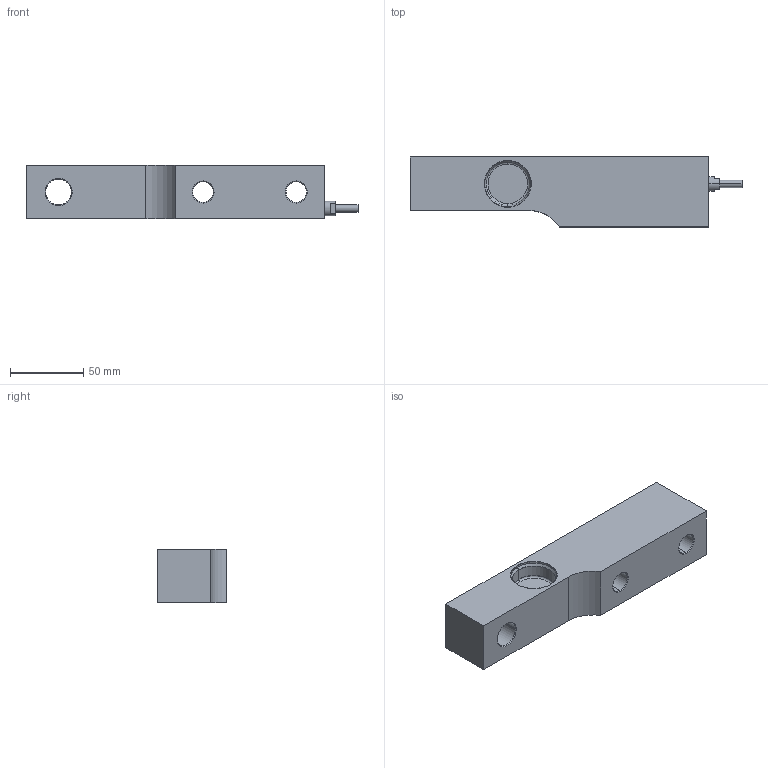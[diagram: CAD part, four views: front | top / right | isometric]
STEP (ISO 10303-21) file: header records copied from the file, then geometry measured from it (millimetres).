
FILE_DESCRIPTION (( 'STEP AP214' ), '1' );
FILE_NAME ('BM8G 2t.STEP', '2023-12-14T09:50:33', ( '' ), ( '' ), 'SwSTEP 2.0', 'SolidWorks 2023', '' );
FILE_SCHEMA (( 'AUTOMOTIVE_DESIGN' ));
Length unit declared in the file: millimetre
Products named in the file (6): Gage cup; BM8G conduit adaptor; BM8G 2t element; Cable part; BM8G 2t; J-Box cover
Assembly tree (6 placements, depth 2):
  BM8G 2t
    BM8G 2t element
    Cable part
    Gage cup  x2
    J-Box cover
    BM8G conduit adaptor
Bounding box: 226.2 x 47.63 x 36.48 mm (x, y, z)
Volume: 254502.7 mm3; surface area: 54293.4 mm2
Topology: 6 solids, 6 shells, 115 faces, 242 edges, 145 vertices
Faces by surface type: cylinder 43, plane 31, cone 29, torus 12
Entity records: 2852 total; most frequent: DIRECTION 529, CARTESIAN_POINT 448, ORIENTED_EDGE 412, AXIS2_PLACEMENT_3D 222, EDGE_CURVE 206, VERTEX_POINT 125, CIRCLE 117, EDGE_LOOP 111
